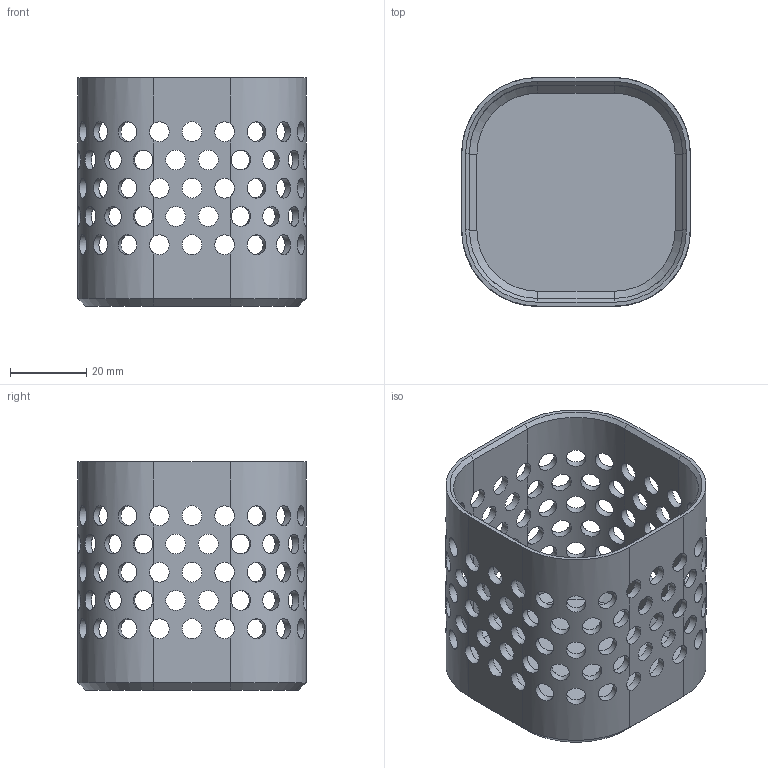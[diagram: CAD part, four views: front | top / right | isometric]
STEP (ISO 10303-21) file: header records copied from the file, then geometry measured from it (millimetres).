
FILE_DESCRIPTION(/* description */ (''),/* implementation_level */ '2;1');
FILE_NAME(/* name */ 'Box 6x6x6.step',/* time_stamp */ '2023-12-22T12:03:26+01:00',/* author */ (''),/* organization */ (''),/* preprocessor_version */ 'ST-DEVELOPER v20',/* originating_system */ 'Autodesk Translation Framework v12.14.0.127',/* authorisation */ '');
FILE_SCHEMA (('AUTOMOTIVE_DESIGN { 1 0 10303 214 3 1 1 }'));
Length unit declared in the file: millimetre
Products named in the file (1): Box 2
Bounding box: 60 x 60 x 60 mm (x, y, z)
Volume: 24414.8 mm3; surface area: 28291.7 mm2
Topology: 1 solids, 1 shells, 163 faces, 920 edges, 696 vertices
Faces by surface type: cylinder 128, plane 23, cone 12
Full cylindrical faces by diameter (mm): 5.2 x120
Entity records: 14158 total; most frequent: CARTESIAN_POINT 7196, ORIENTED_EDGE 1840, DIRECTION 940, EDGE_CURVE 920, VERTEX_POINT 696, B_SPLINE_CURVE_WITH_KNOTS 488, AXIS2_PLACEMENT_3D 344, EDGE_LOOP 340
